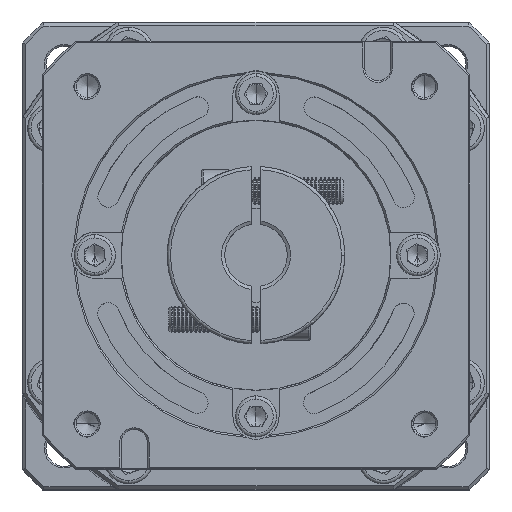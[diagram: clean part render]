
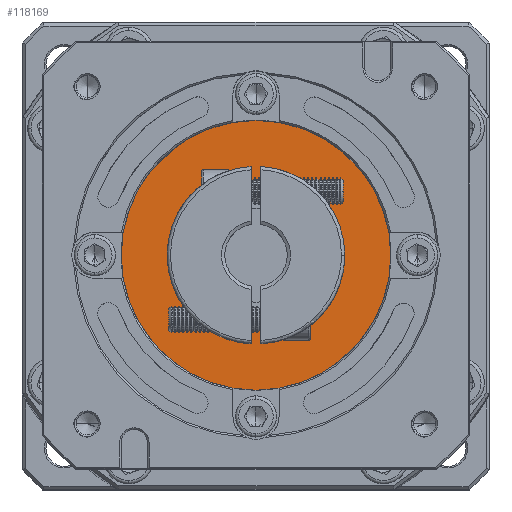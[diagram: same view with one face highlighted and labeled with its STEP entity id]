
A CAD part, top view. The second image highlights one B-rep face of the part: STEP entity #118169.
In plain terms, the highlighted planar face has unit normal (0, 0, 1).
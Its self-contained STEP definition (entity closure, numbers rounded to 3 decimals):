
#3369 = CARTESIAN_POINT ( 'NONE',  ( -117.595, 93.131, -34.634 ) ) ;
#3575 = AXIS2_PLACEMENT_3D ( 'NONE', #56333, #43679, #149642 ) ;
#4325 = DIRECTION ( 'NONE',  ( 0., 0., -1. ) ) ;
#6680 = CARTESIAN_POINT ( 'NONE',  ( -117.595, 113.131, -34.634 ) ) ;
#7147 = DIRECTION ( 'NONE',  ( 0., 1., 0. ) ) ;
#8992 = VERTEX_POINT ( 'NONE', #130204 ) ;
#10851 = EDGE_CURVE ( 'NONE', #8992, #142467, #140370, .T. ) ;
#18557 = DIRECTION ( 'NONE',  ( 0., 0., 1. ) ) ;
#19995 = EDGE_LOOP ( 'NONE', ( #110432, #101110 ) ) ;
#20020 = DIRECTION ( 'NONE',  ( 0., 0., 1. ) ) ;
#29385 = AXIS2_PLACEMENT_3D ( 'NONE', #124744, #112649, #7147 ) ;
#34020 = VERTEX_POINT ( 'NONE', #99299 ) ;
#34246 = CIRCLE ( 'NONE', #113867, 20. ) ;
#42281 = DIRECTION ( 'NONE',  ( 0., 1., 0. ) ) ;
#43679 = DIRECTION ( 'NONE',  ( 0., 0., 1. ) ) ;
#52837 = AXIS2_PLACEMENT_3D ( 'NONE', #87744, #20020, #42281 ) ;
#56333 = CARTESIAN_POINT ( 'NONE',  ( -117.595, 93.131, -34.634 ) ) ;
#58859 = FACE_OUTER_BOUND ( 'NONE', #69058, .T. ) ;
#65107 = CARTESIAN_POINT ( 'NONE',  ( -117.595, 93.131, -34.634 ) ) ;
#69058 = EDGE_LOOP ( 'NONE', ( #120389, #94560 ) ) ;
#87384 = EDGE_CURVE ( 'NONE', #142467, #8992, #113672, .T. ) ;
#87744 = CARTESIAN_POINT ( 'NONE',  ( -117.595, 93.131, -34.634 ) ) ;
#88294 = DIRECTION ( 'NONE',  ( 0., 1., 0. ) ) ;
#92746 = EDGE_CURVE ( 'NONE', #136372, #34020, #109301, .T. ) ;
#94560 = ORIENTED_EDGE ( 'NONE', *, *, #87384, .T. ) ;
#94755 = DIRECTION ( 'NONE',  ( 0., 1., 0. ) ) ;
#99299 = CARTESIAN_POINT ( 'NONE',  ( -117.595, 73.131, -34.634 ) ) ;
#101110 = ORIENTED_EDGE ( 'NONE', *, *, #103363, .T. ) ;
#103363 = EDGE_CURVE ( 'NONE', #34020, #136372, #34246, .T. ) ;
#109301 = CIRCLE ( 'NONE', #29385, 20. ) ;
#110007 = PLANE ( 'NONE',  #140478 ) ;
#110432 = ORIENTED_EDGE ( 'NONE', *, *, #92746, .T. ) ;
#112649 = DIRECTION ( 'NONE',  ( 0., 0., -1. ) ) ;
#113672 = CIRCLE ( 'NONE', #3575, 41. ) ;
#113867 = AXIS2_PLACEMENT_3D ( 'NONE', #3369, #4325, #94755 ) ;
#118169 = ADVANCED_FACE ( 'NONE', ( #58859, #147303 ), #110007, .T. ) ;
#120389 = ORIENTED_EDGE ( 'NONE', *, *, #10851, .T. ) ;
#124744 = CARTESIAN_POINT ( 'NONE',  ( -117.595, 93.131, -34.634 ) ) ;
#130204 = CARTESIAN_POINT ( 'NONE',  ( -117.595, 134.131, -34.634 ) ) ;
#135829 = CARTESIAN_POINT ( 'NONE',  ( -117.595, 52.131, -34.634 ) ) ;
#136372 = VERTEX_POINT ( 'NONE', #6680 ) ;
#140370 = CIRCLE ( 'NONE', #52837, 41. ) ;
#140478 = AXIS2_PLACEMENT_3D ( 'NONE', #65107, #18557, #88294 ) ;
#142467 = VERTEX_POINT ( 'NONE', #135829 ) ;
#147303 = FACE_BOUND ( 'NONE', #19995, .T. ) ;
#149642 = DIRECTION ( 'NONE',  ( 0., 1., 0. ) ) ;
